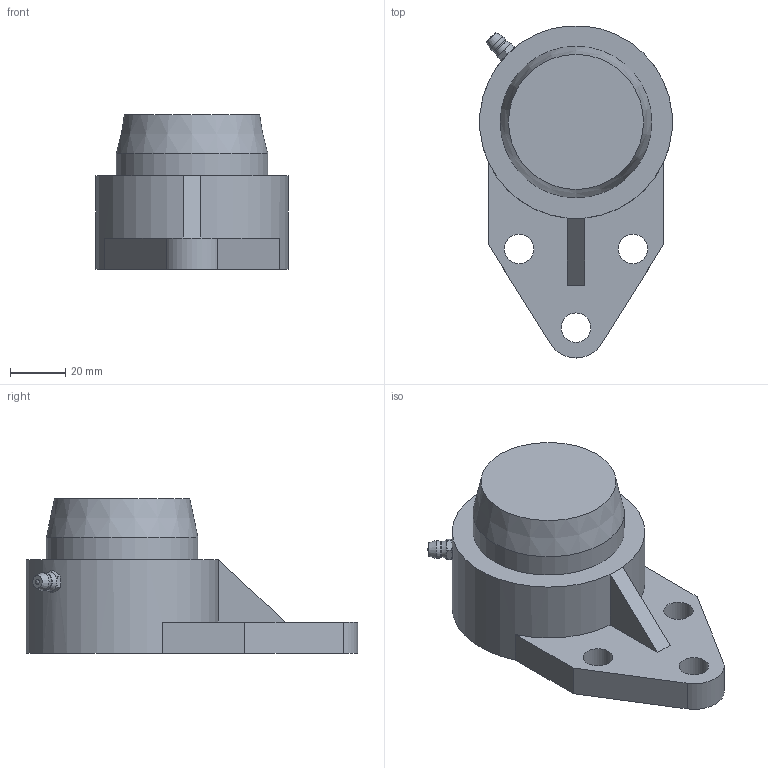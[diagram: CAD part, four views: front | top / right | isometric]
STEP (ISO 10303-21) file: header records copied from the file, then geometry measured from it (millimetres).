
FILE_DESCRIPTION(/* description */ (''),/* implementation_level */ '2;1');
FILE_NAME(/* name */ 'C:\Users\UGijyutu_200702\Desktop\77.プラスチックハウジング\MBFBL200V\MBFBL200VE\MBFBL205VE.stp',/* time_stamp */ '2023-05-08T16:20:45+09:00',/* author */ ('UGijyutu_200702'),/* organization */ (''),/* preprocessor_version */ 'ST-DEVELOPER v18',/* originating_system */ 'Autodesk Inventor 2020',/* authorisation */ '');
FILE_SCHEMA (('AUTOMOTIVE_DESIGN { 1 0 10303 214 3 1 1 }'));
Length unit declared in the file: millimetre
Products named in the file (5): MBFBL205VE; FBL205; MB5 V; 1/4-28UNF-2A; 205E
Assembly tree (4 placements, depth 2):
  MBFBL205VE
    FBL205
    MB5 V
    1/4-28UNF-2A
    205E
Bounding box: 69.75 x 120.47 x 56.2 mm (x, y, z)
Volume: 119178.3 mm3; surface area: 45456.7 mm2
Topology: 4 solids, 4 shells, 91 faces, 222 edges, 152 vertices
Faces by surface type: plane 47, cylinder 21, cone 17, sphere 4, torus 2
Full cylindrical faces by diameter (mm): 3.2 x1, 4.978 x1, 5 x2, 6.35 x1, 10.7 x3, 25 x1, 34 x1, 51.4 x1, 54.8 x2, 55 x1, 62 x1
Entity records: 3161 total; most frequent: CARTESIAN_POINT 728, DIRECTION 480, ORIENTED_EDGE 442, EDGE_CURVE 221, AXIS2_PLACEMENT_3D 197, VERTEX_POINT 152, EDGE_LOOP 117, CIRCLE 97
